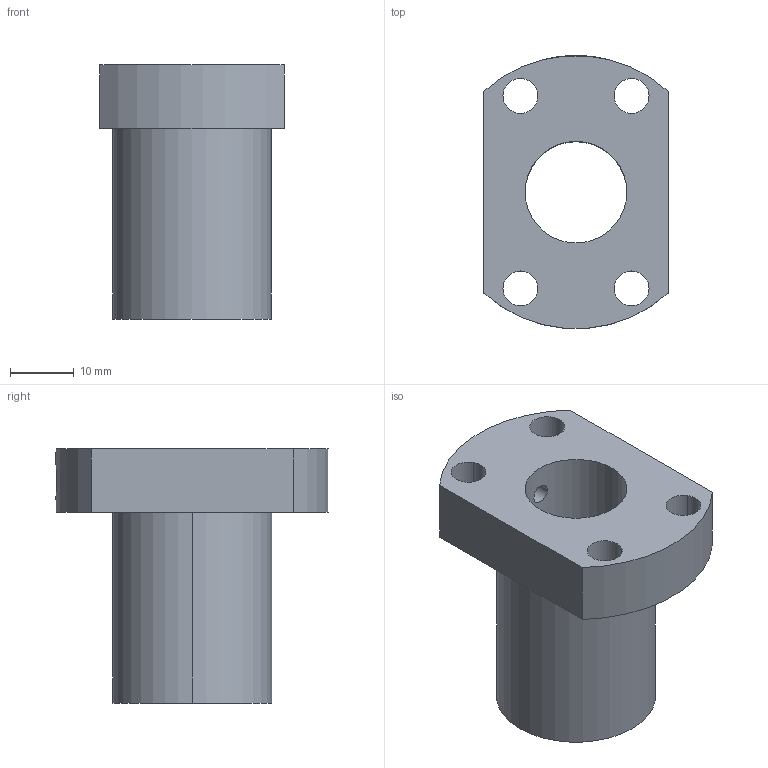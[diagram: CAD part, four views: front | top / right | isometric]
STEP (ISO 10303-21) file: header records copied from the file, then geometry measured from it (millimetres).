
FILE_DESCRIPTION(('STEP AP214'),'1');
FILE_NAME('cgr162sfkd1_240-.stp','2025-04-29T13:53:21',('TraceParts'),('TraceParts S.A.'),'Spatial InterOp 3D',' ',' ');
FILE_SCHEMA(('AUTOMOTIVE_DESIGN { 1 0 10303 214 1 1 1 1 }'));
Length unit declared in the file: millimetre
Products named in the file (1): cgr162sfkd1_240-
Bounding box: 29 x 42.93 x 40 mm (x, y, z)
Volume: 16981.4 mm3; surface area: 8192.5 mm2
Topology: 1 solids, 1 shells, 34 faces, 80 edges, 50 vertices
Faces by surface type: cylinder 22, cone 6, plane 6
Entity records: 1406 total; most frequent: CARTESIAN_POINT 281, DIRECTION 188, ORIENTED_EDGE 160, EDGE_CURVE 80, AXIS2_PLACEMENT_3D 77, VERTEX_POINT 50, EDGE_LOOP 48, CIRCLE 42
